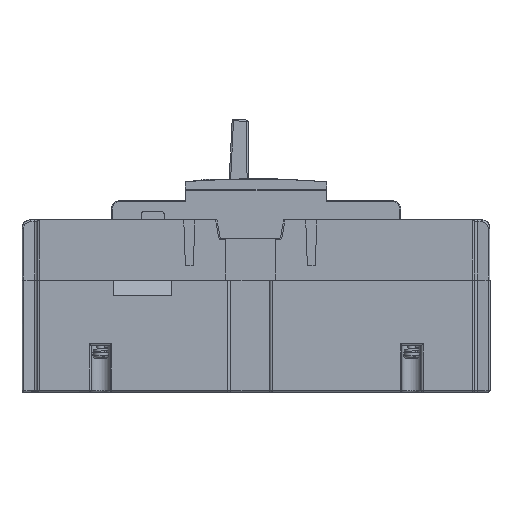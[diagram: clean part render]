
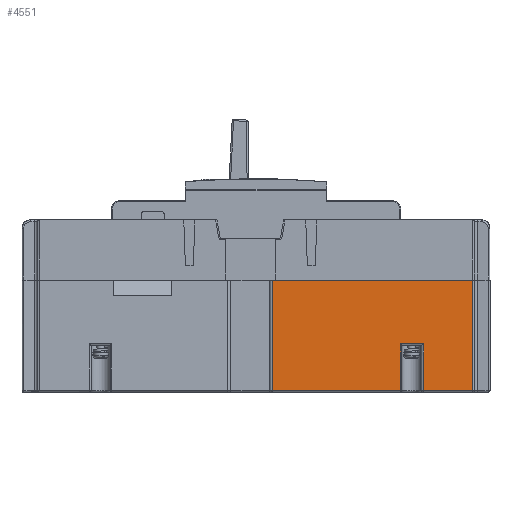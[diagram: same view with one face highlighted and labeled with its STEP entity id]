
A CAD part, front view. The second image highlights one B-rep face of the part: STEP entity #4551.
In plain terms, the highlighted planar face has unit normal (0, -1, 0).
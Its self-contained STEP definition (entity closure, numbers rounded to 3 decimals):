
#4551=ADVANCED_FACE('',(#11238),#8291,.F.);
#8291=PLANE('',#77026);
#11238=FACE_OUTER_BOUND('',#15018,.T.);
#15018=EDGE_LOOP('',(#25969,#25970,#25971,#25972,#25973,#25974,#25975,#25976));
#25969=ORIENTED_EDGE('',*,*,#52495,.F.);
#25970=ORIENTED_EDGE('',*,*,#52496,.T.);
#25971=ORIENTED_EDGE('',*,*,#52497,.T.);
#25972=ORIENTED_EDGE('',*,*,#52498,.T.);
#25973=ORIENTED_EDGE('',*,*,#52499,.T.);
#25974=ORIENTED_EDGE('',*,*,#52500,.T.);
#25975=ORIENTED_EDGE('',*,*,#52501,.T.);
#25976=ORIENTED_EDGE('',*,*,#52480,.F.);
#44638=VERTEX_POINT('',#110786);
#44639=VERTEX_POINT('',#110787);
#44648=VERTEX_POINT('',#110816);
#44649=VERTEX_POINT('',#110818);
#44650=VERTEX_POINT('',#110820);
#44651=VERTEX_POINT('',#110822);
#44652=VERTEX_POINT('',#110824);
#44653=VERTEX_POINT('',#110826);
#52480=EDGE_CURVE('',#44638,#44639,#62124,.T.);
#52495=EDGE_CURVE('',#44648,#44638,#62133,.T.);
#52496=EDGE_CURVE('',#44648,#44649,#62134,.T.);
#52497=EDGE_CURVE('',#44649,#44650,#62135,.T.);
#52498=EDGE_CURVE('',#44650,#44651,#62136,.T.);
#52499=EDGE_CURVE('',#44651,#44652,#62137,.T.);
#52500=EDGE_CURVE('',#44652,#44653,#62138,.T.);
#52501=EDGE_CURVE('',#44653,#44639,#62139,.T.);
#62124=LINE('',#110785,#69709);
#62133=LINE('',#110815,#69718);
#62134=LINE('',#110817,#69719);
#62135=LINE('',#110819,#69720);
#62136=LINE('',#110821,#69721);
#62137=LINE('',#110823,#69722);
#62138=LINE('',#110825,#69723);
#62139=LINE('',#110827,#69724);
#69709=VECTOR('',#86946,1.);
#69718=VECTOR('',#86977,1.);
#69719=VECTOR('',#86978,1.);
#69720=VECTOR('',#86979,1.);
#69721=VECTOR('',#86980,1.);
#69722=VECTOR('',#86981,1.);
#69723=VECTOR('',#86982,1.);
#69724=VECTOR('',#86983,1.);
#77026=AXIS2_PLACEMENT_3D('',#110828,#86984,#86985);
#86946=DIRECTION('',(0.,0.,-1.));
#86977=DIRECTION('',(1.,0.,0.));
#86978=DIRECTION('',(0.,0.,-1.));
#86979=DIRECTION('',(1.,0.,0.));
#86980=DIRECTION('',(0.,0.,1.));
#86981=DIRECTION('',(1.,0.,0.));
#86982=DIRECTION('',(0.,0.,-1.));
#86983=DIRECTION('',(1.,0.,0.));
#86984=DIRECTION('',(0.,1.,0.));
#86985=DIRECTION('',(0.,0.,-1.));
#110785=CARTESIAN_POINT('',(158.37,-26.1,-48.84));
#110786=CARTESIAN_POINT('',(158.37,-26.1,-48.84));
#110787=CARTESIAN_POINT('',(158.37,-26.1,-87.84));
#110815=CARTESIAN_POINT('',(158.37,-26.1,-48.84));
#110816=CARTESIAN_POINT('',(87.67,-26.1,-48.84));
#110817=CARTESIAN_POINT('',(87.67,-26.1,-48.84));
#110818=CARTESIAN_POINT('',(87.67,-26.1,-87.84));
#110819=CARTESIAN_POINT('',(158.37,-26.1,-87.84));
#110820=CARTESIAN_POINT('',(132.82,-26.1,-87.84));
#110821=CARTESIAN_POINT('',(132.82,-26.1,-48.84));
#110822=CARTESIAN_POINT('',(132.82,-26.1,-71.34));
#110823=CARTESIAN_POINT('',(158.37,-26.1,-71.34));
#110824=CARTESIAN_POINT('',(141.02,-26.1,-71.34));
#110825=CARTESIAN_POINT('',(141.02,-26.1,-48.84));
#110826=CARTESIAN_POINT('',(141.02,-26.1,-87.84));
#110827=CARTESIAN_POINT('',(158.37,-26.1,-87.84));
#110828=CARTESIAN_POINT('',(158.37,-26.1,-48.84));
